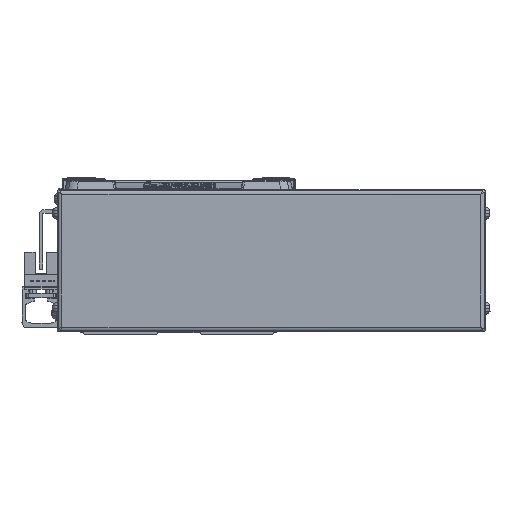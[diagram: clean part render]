
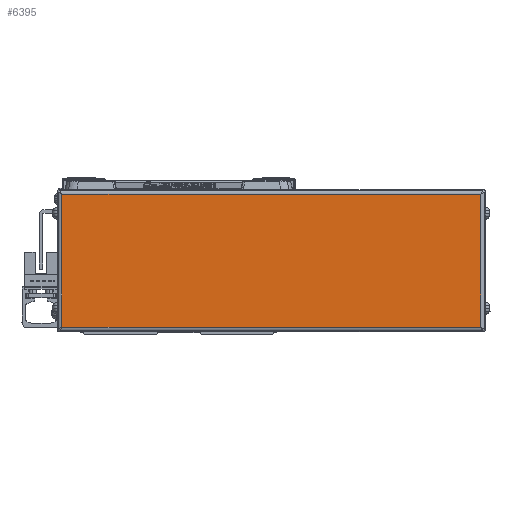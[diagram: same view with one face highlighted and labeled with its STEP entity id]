
A CAD part, left-side view. The second image highlights one B-rep face of the part: STEP entity #6395.
In plain terms, the highlighted planar face has unit normal (-1, 0, 0).
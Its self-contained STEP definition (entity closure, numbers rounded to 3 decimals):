
#6395=ADVANCED_FACE('',(#13319),#13320,.T.);
#13319=FACE_OUTER_BOUND('',#21533,.T.);
#13320=PLANE('',#21534);
#21533=EDGE_LOOP('',(#39754,#39755,#39756,#39757));
#21534=AXIS2_PLACEMENT_3D('',#39758,#39759,#39760);
#39754=ORIENTED_EDGE('',*,*,#52247,.F.);
#39755=ORIENTED_EDGE('',*,*,#51594,.F.);
#39756=ORIENTED_EDGE('',*,*,#45683,.F.);
#39757=ORIENTED_EDGE('',*,*,#52248,.F.);
#39758=CARTESIAN_POINT('',(-616.,-39.,0.));
#39759=DIRECTION('',(-1.0,0.,0.));
#39760=DIRECTION('',(0.,0.,1.0));
#45683=EDGE_CURVE('',#54839,#54841,#54842,.T.);
#51594=EDGE_CURVE('',#54841,#63762,#63763,.T.);
#52247=EDGE_CURVE('',#63762,#64459,#64538,.T.);
#52248=EDGE_CURVE('',#64459,#54839,#64539,.T.);
#54839=VERTEX_POINT('',#67756);
#54841=VERTEX_POINT('',#67758);
#54842=LINE('',#67759,#67760);
#63762=VERTEX_POINT('',#80181);
#63763=LINE('',#80182,#80183);
#64459=VERTEX_POINT('',#81108);
#64538=LINE('',#81212,#81213);
#64539=LINE('',#81214,#81215);
#67756=CARTESIAN_POINT('',(-616.,-127.2,-28.));
#67758=CARTESIAN_POINT('',(-616.0,49.2,-28.));
#67759=CARTESIAN_POINT('',(-616.,-39.,-28.));
#67760=VECTOR('',#83773,10.0);
#80181=CARTESIAN_POINT('',(-616.0,49.2,28.));
#80182=CARTESIAN_POINT('',(-616.0,49.2,0.));
#80183=VECTOR('',#91427,10.0);
#81108=CARTESIAN_POINT('',(-616.,-127.2,28.));
#81212=CARTESIAN_POINT('',(-616.,-39.,28.));
#81213=VECTOR('',#92098,10.0);
#81214=CARTESIAN_POINT('',(-616.,-127.2,0.));
#81215=VECTOR('',#92099,10.0);
#83773=DIRECTION('',(0.,1.0,0.));
#91427=DIRECTION('',(0.,0.,1.0));
#92098=DIRECTION('',(0.,-1.0,0.));
#92099=DIRECTION('',(0.,0.,-1.0));
